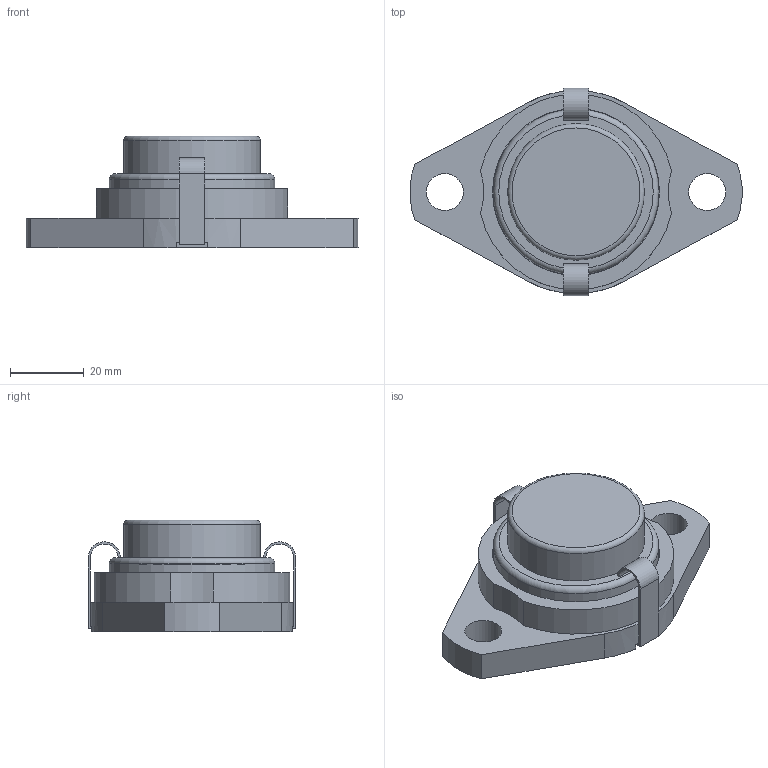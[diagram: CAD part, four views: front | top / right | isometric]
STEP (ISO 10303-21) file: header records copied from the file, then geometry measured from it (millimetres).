
FILE_DESCRIPTION((''),'2;1');
FILE_NAME('\\Ts-tgl068\j-cad-d-base\00.3DCADデータ作成フォルダ\11.エコシリーズ\MUSFL000\MUSFL004E.stp','2014-11-12T09:52:14',('btec_1106_2'),(''),'Autodesk Inventor 2012','Autodesk Inventor 2012','');
FILE_SCHEMA(('AUTOMOTIVE_DESIGN { 1 0 10303 214 1 1 1 1 }'));
Length unit declared in the file: millimetre
Products named in the file (5): MUSFL000C(E); SFL004; U004; 04-5CPE; 4-5CLL
Assembly tree (5 placements, depth 2):
  MUSFL000C(E)
    SFL004
    U004
    04-5CPE
    4-5CLL  x2
Bounding box: 89.89 x 56.2 x 30.2 mm (x, y, z)
Volume: 38080.1 mm3; surface area: 24084.5 mm2
Topology: 5 solids, 5 shells, 107 faces, 256 edges, 167 vertices
Faces by surface type: plane 60, cylinder 38, torus 4, cone 3, sphere 2
Full cylindrical faces by diameter (mm): 3.5 x1, 5 x1, 10 x2, 20 x1, 27 x1, 30 x1, 36.4 x1, 37 x1, 44.2 x1, 44.8 x1, 45.2 x1
Entity records: 2944 total; most frequent: CARTESIAN_POINT 589, DIRECTION 494, ORIENTED_EDGE 406, EDGE_CURVE 203, AXIS2_PLACEMENT_3D 190, VERTEX_POINT 145, EDGE_LOOP 138, VECTOR 114
